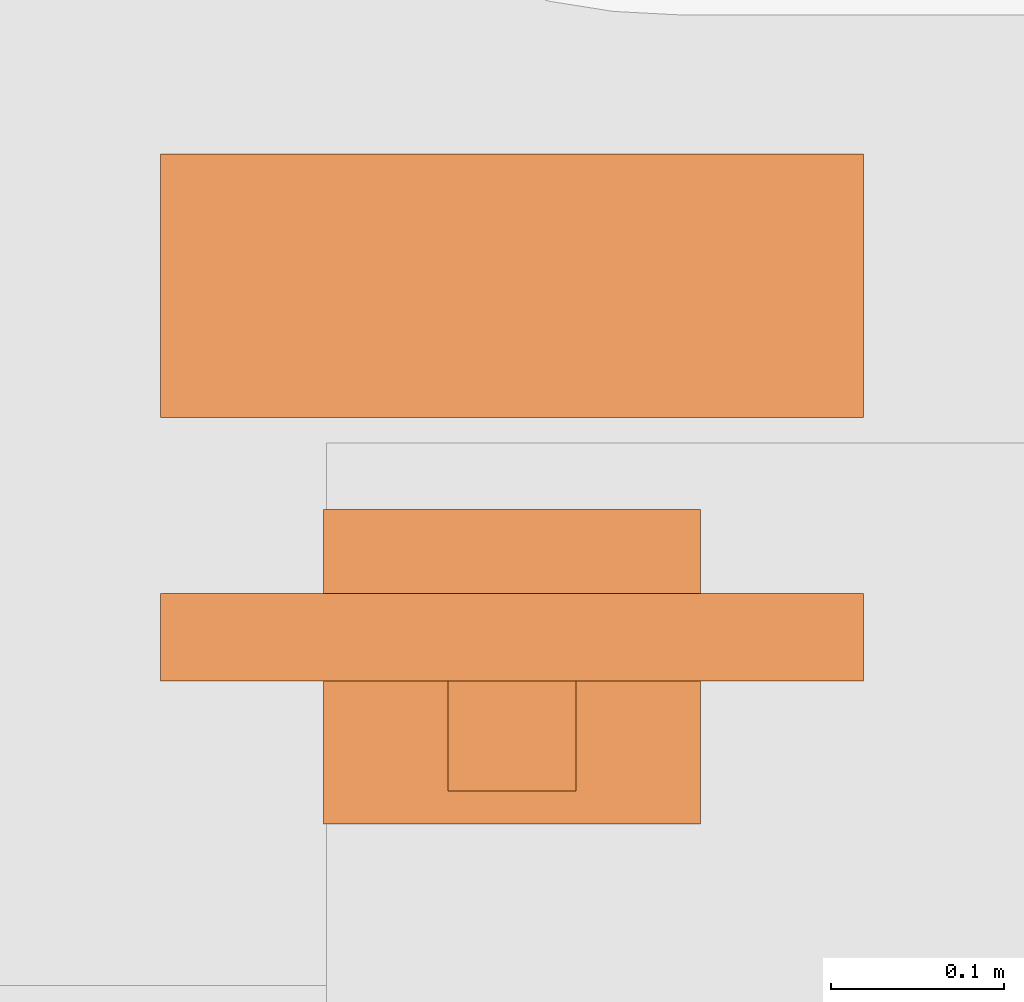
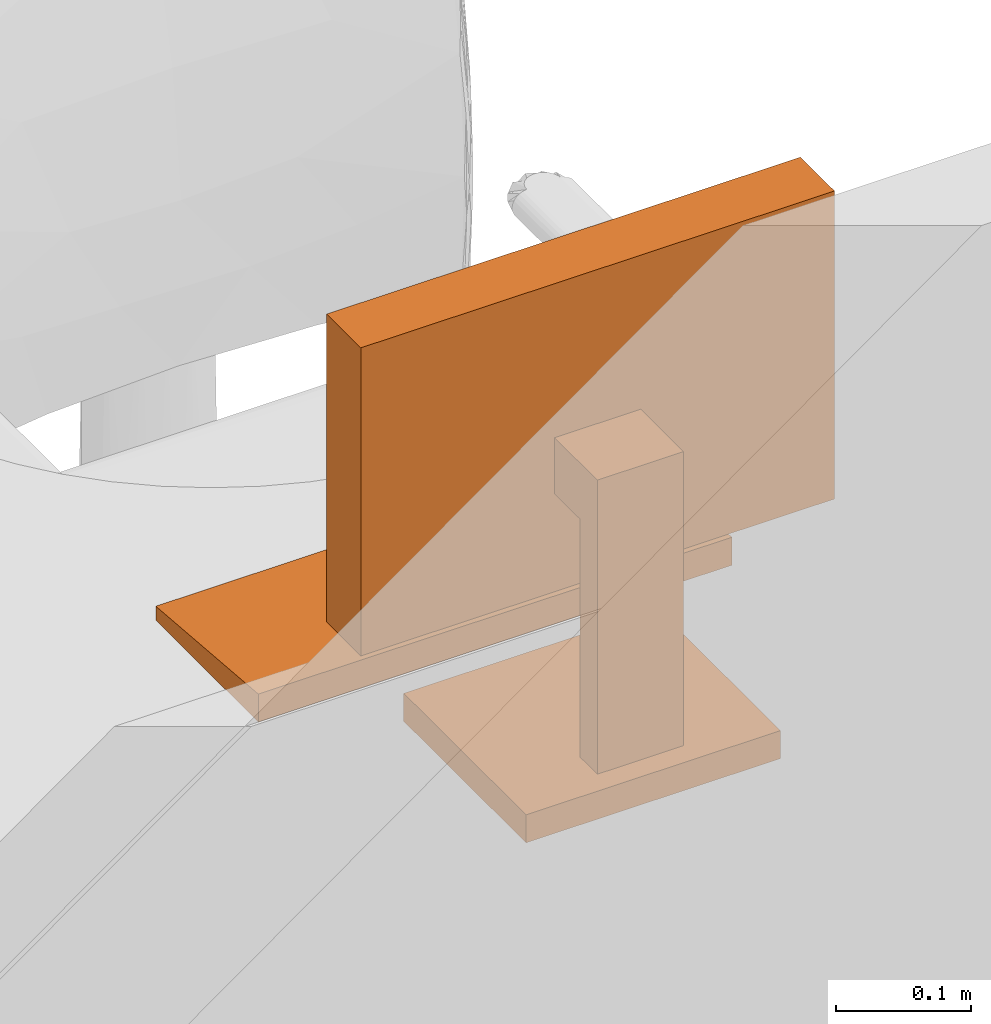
# One storey, part 121 of 142: 1 proxy.
"""IFC2X3 building model written with IfcOpenShell, lengths in feet."""

from ifc_helpers import new_model, entity, si_unit, converted_unit, derived_unit, direction, frame, origin, place, context, subcontext, project, spatial, faceted_brep, source, transform, mapped, type_object, type_shapes, element, save


model = new_model("IFC2X3")

# Units and contexts
model_context = context("Model", 3, precision=0.0001, world=origin(), true_north=direction((6.12303176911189e-17, 1.0)))
body_context = subcontext(model_context, "Body", "Model", "MODEL_VIEW")
ifc_project = project(units=[converted_unit("LENGTHUNIT", "FOOT", entity("IfcRatioMeasure", 0.3048), si_unit("LENGTHUNIT", "METRE"), dimensions=[1, 0, 0, 0, 0, 0, 0]), converted_unit("AREAUNIT", "SQUARE FOOT", entity("IfcRatioMeasure", 0.09290304), si_unit("AREAUNIT", "SQUARE_METRE"), dimensions=[2, 0, 0, 0, 0, 0, 0]), converted_unit("VOLUMEUNIT", "CUBIC FOOT", entity("IfcRatioMeasure", 0.028316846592), si_unit("VOLUMEUNIT", "CUBIC_METRE"), dimensions=[3, 0, 0, 0, 0, 0, 0]), converted_unit("PLANEANGLEUNIT", "DEGREE", entity("IfcRatioMeasure", 0.0174532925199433), si_unit("PLANEANGLEUNIT", "RADIAN"), dimensions=[0, 0, 0, 0, 0, 0, 0]), si_unit("MASSUNIT", "GRAM", prefix="KILO"), derived_unit("MASSDENSITYUNIT", [(si_unit("MASSUNIT", "GRAM", prefix="KILO"), 1), (si_unit("LENGTHUNIT", "METRE"), -3)]), si_unit("TIMEUNIT", "SECOND"), si_unit("FREQUENCYUNIT", "HERTZ"), si_unit("THERMODYNAMICTEMPERATUREUNIT", "DEGREE_CELSIUS"), derived_unit("THERMALTRANSMITTANCEUNIT", [(si_unit("MASSUNIT", "GRAM", prefix="KILO"), 1), (si_unit("THERMODYNAMICTEMPERATUREUNIT", "KELVIN"), -1), (si_unit("TIMEUNIT", "SECOND"), -3)]), derived_unit("VOLUMETRICFLOWRATEUNIT", [(si_unit("LENGTHUNIT", "METRE"), 3), (si_unit("TIMEUNIT", "SECOND"), -1)]), si_unit("ELECTRICCURRENTUNIT", "AMPERE"), si_unit("ELECTRICVOLTAGEUNIT", "VOLT"), si_unit("POWERUNIT", "WATT"), si_unit("FORCEUNIT", "NEWTON"), si_unit("ILLUMINANCEUNIT", "LUX"), si_unit("LUMINOUSFLUXUNIT", "LUMEN"), si_unit("LUMINOUSINTENSITYUNIT", "CANDELA"), derived_unit("USERDEFINED", [(si_unit("MASSUNIT", "GRAM", prefix="KILO"), -1), (si_unit("LENGTHUNIT", "METRE"), -2), (si_unit("TIMEUNIT", "SECOND"), 3), (si_unit("LUMINOUSFLUXUNIT", "LUMEN"), 1)]), derived_unit("LINEARVELOCITYUNIT", [(si_unit("LENGTHUNIT", "METRE"), 1), (si_unit("TIMEUNIT", "SECOND"), -1)]), si_unit("PRESSUREUNIT", "PASCAL"), derived_unit("USERDEFINED", [(si_unit("LENGTHUNIT", "METRE"), -2), (si_unit("MASSUNIT", "GRAM", prefix="KILO"), 1), (si_unit("TIMEUNIT", "SECOND"), -2)])], contexts=[model_context])

# Site, building, storey, space
site_placement = place(None, origin())
site = spatial("IfcSite", under=ifc_project, at=site_placement, Name="Default", CompositionType="ELEMENT")
building_placement = place(site_placement, origin())
building = spatial("IfcBuilding", under=site, at=building_placement, Name="OUTPATIENT / PACT CLINIC (Ch. 265)", CompositionType="ELEMENT")
storey_placement = place(building_placement, origin())
storey = spatial("IfcBuildingStorey", under=building, at=storey_placement, Name="LEVEL 1", CompositionType="ELEMENT", Elevation=0.0)
space_placement = place(storey_placement, origin())
space = spatial("IfcSpace", under=storey, at=space_placement, Name="WRTM1", CompositionType="ELEMENT", InteriorOrExteriorSpace="INTERNAL")

# Proxy
building_element_proxy_type = type_object("IfcBuildingElementProxyType", Name="M1801 - Computer with Flat Panel Monitor", PredefinedType="NOTDEFINED")
shared_shape = source(origin(), body_context, "Body", "Brep", [
    faceted_brep([(0.666666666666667, 0.5625, 0.0), (0.666666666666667, 0.5625, 0.0416666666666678), (0.666666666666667, 0.0624999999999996, 0.0833333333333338), (0.666666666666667, 0.0624999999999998, 0.0), (-0.666666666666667, 0.5625, 0.0), (-0.666666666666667, 0.0624999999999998, 0.0), (-0.666666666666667, 0.0624999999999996, 0.0833333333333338), (-0.666666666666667, 0.5625, 0.0416666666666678)], [[[0, 1, 2, 3]], [[4, 5, 6, 7]], [[3, 5, 4, 0]], [[2, 6, 5, 3]], [[1, 7, 6, 2]], [[0, 4, 7, 1]]]),
    faceted_brep([(0.666666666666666, -0.437223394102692, 1.41666666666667), (0.666666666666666, -0.271109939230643, 1.41666666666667), (-0.666666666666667, -0.271109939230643, 1.41666666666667), (-0.666666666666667, -0.437223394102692, 1.41666666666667), (0.666666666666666, -0.437223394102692, 0.500000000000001), (-0.666666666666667, -0.437223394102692, 0.500000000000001), (-0.666666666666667, -0.271109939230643, 0.500000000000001), (0.666666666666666, -0.271109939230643, 0.500000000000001), (-0.625, -0.271109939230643, 1.375), (-0.625, -0.271109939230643, 0.541666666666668), (0.625, -0.271109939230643, 0.541666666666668), (0.625, -0.271109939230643, 1.375), (0.625, -0.286812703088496, 1.375), (-0.625, -0.286812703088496, 1.375), (0.625, -0.286812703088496, 0.541666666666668), (-0.625, -0.286812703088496, 0.541666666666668)], [[[0, 1, 2, 3]], [[4, 5, 6, 7]], [[3, 5, 4, 0]], [[2, 6, 5, 3]], [[8, 9, 10, 11], [1, 7, 6, 2]], [[0, 4, 7, 1]], [[12, 13, 8, 11]], [[14, 10, 9, 15]], [[12, 14, 15, 13]], [[13, 15, 9, 8]], [[11, 10, 14, 12]]], outer=[[True], [True], [True], [True], [False, True], [True], [True], [True], [True], [True], [True]]),
    faceted_brep([(0.358011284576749, -0.111770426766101, 0.0833333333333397), (0.358011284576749, -0.708333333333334, 0.0833333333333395), (0.358011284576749, -0.708333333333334, 0.0), (0.358011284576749, -0.111770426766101, 0.0), (-0.358011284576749, -0.708333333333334, 0.0833333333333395), (-0.358011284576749, -0.111770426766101, 0.0833333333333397), (-0.358011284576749, -0.111770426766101, 0.0), (-0.358011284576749, -0.708333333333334, 0.0), (0.12128795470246, -0.645556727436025, 0.104166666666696), (-0.12128795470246, -0.645556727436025, 0.104166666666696), (-0.12128795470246, -0.645556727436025, 0.0833333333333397), (0.12128795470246, -0.645556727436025, 0.0833333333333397), (0.12128795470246, -0.645556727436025, 0.958333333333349), (-0.12128795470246, -0.645556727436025, 0.958333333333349), (0.12128795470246, -0.437223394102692, 0.958333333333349), (-0.12128795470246, -0.437223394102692, 0.958333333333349), (0.12128795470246, -0.437223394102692, 0.791666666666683), (-0.12128795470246, -0.437223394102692, 0.791666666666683), (0.12128795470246, -0.562223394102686, 0.791666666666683), (-0.12128795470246, -0.562223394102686, 0.791666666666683), (0.12128795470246, -0.562223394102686, 0.0833333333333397), (-0.12128795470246, -0.562223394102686, 0.0833333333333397)], [[[0, 1, 2, 3]], [[4, 5, 6, 7]], [[8, 9, 10, 11]], [[12, 13, 9, 8]], [[14, 15, 13, 12]], [[16, 17, 15, 14]], [[18, 19, 17, 16]], [[20, 21, 19, 18]], [[11, 10, 21, 20], [0, 5, 4, 1]], [[3, 6, 5, 0]], [[2, 7, 6, 3]], [[1, 4, 7, 2]], [[20, 18, 16, 14, 12, 8, 11]], [[10, 9, 13, 15, 17, 19, 21]]], outer=[[True], [True], [True], [True], [True], [True], [True], [True], [False, True], [True], [True], [True], [True], [True]]),
])
type_shapes(building_element_proxy_type, [shared_shape])
proxy_placement = place(space_placement, frame((411.711481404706, -888.24701739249, 2.49999999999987)))
element("IfcBuildingElementProxy", 1, at=proxy_placement, inside=space, type_object=building_element_proxy_type, Name="M1801 - Computer with Flat Panel Monitor:M1801 - Computer with Flat Panel Monitor", ObjectType="M1801 - Computer with Flat Panel Monitor", context=body_context, shape_type="MappedRepresentation", body=[
    mapped(shared_shape, transform((0.0, 0.0, 0.0), scale=1.0)),
])

save(model, "model.ifc")
